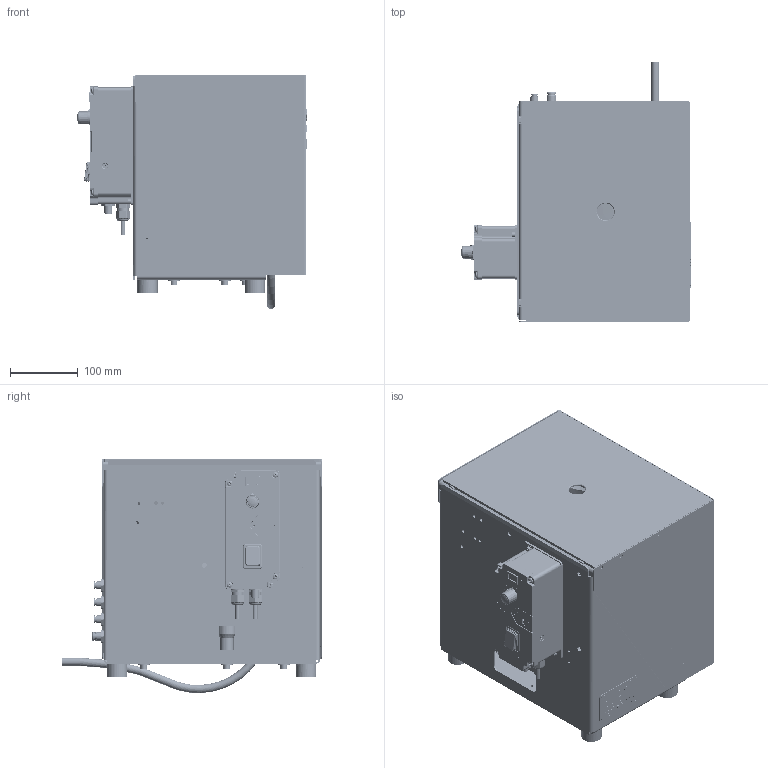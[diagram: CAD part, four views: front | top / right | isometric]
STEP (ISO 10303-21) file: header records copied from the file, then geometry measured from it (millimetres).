
FILE_DESCRIPTION(/* description */ (''),/* implementation_level */ '2;1');
FILE_NAME(/* name */ 'G:\Modelle für Marketing\3Ds Parasolid\Teil 2\3D_Parasolid_automatic_feed_unit_bowl_feeder_ZSE1800_series.x_b.ipt.stp',/* time_stamp */ '2016-07-28T11:56:06+02:00',/* author */ ('Wolf'),/* organization */ (''),/* preprocessor_version */ 'ST-DEVELOPER v15.2',/* originating_system */ 'Autodesk Inventor 2014',/* authorisation */ '');
FILE_SCHEMA (('AUTOMOTIVE_DESIGN { 1 0 10303 214 3 1 1 }'));
Products named in the file (1): 3D_Parasolid_automatic_feed_unit_bowl_feeder_ZSE1800_series.x_b
Bounding box: 337.63 x 382.13 x 344.43 mm (x, y, z)
Volume: 5701505.4 mm3; surface area: 1743841.1 mm2
Topology: 8 solids, 129 shells, 12841 faces, 34808 edges, 22876 vertices
Faces by surface type: plane 9143, cylinder 1479, bspline 1451, cone 560, torus 178, sphere 30
Full cylindrical faces by diameter (mm): 0.5 x1, 1 x4, 1.2 x8, 1.5 x4, 1.6 x2, 2 x5, 2.2 x4, 2.4 x2, 2.459 x2, 2.5 x2, 2.54 x1, 2.65 x2, 3 x5, 3.03 x2, 3.242 x18, 3.5 x4, 3.8 x2, 3.99 x2, 4 x50, 4.019 x6, 4.134 x13, 4.2 x1, 4.3 x4, 4.4 x5, 4.45 x1, 4.5 x13, 4.773 x1, 4.917 x22, 5 x34, 5.1 x1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
Entity records: 441223 total; most frequent: CARTESIAN_POINT 121361, ORIENTED_EDGE 66352, DIRECTION 55847, EDGE_CURVE 33176, LINE 25185, VECTOR 25185, VERTEX_POINT 22360, AXIS2_PLACEMENT_3D 15331
